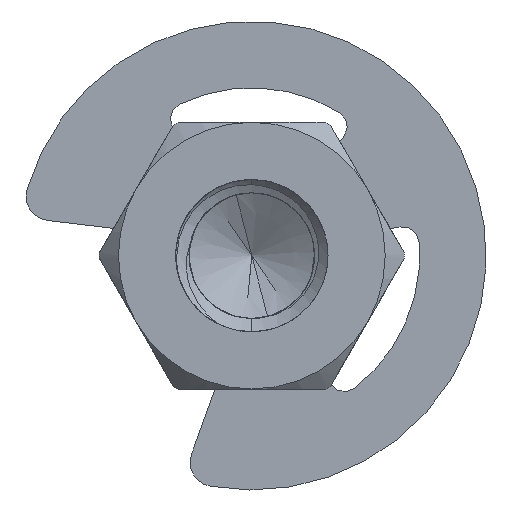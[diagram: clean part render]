
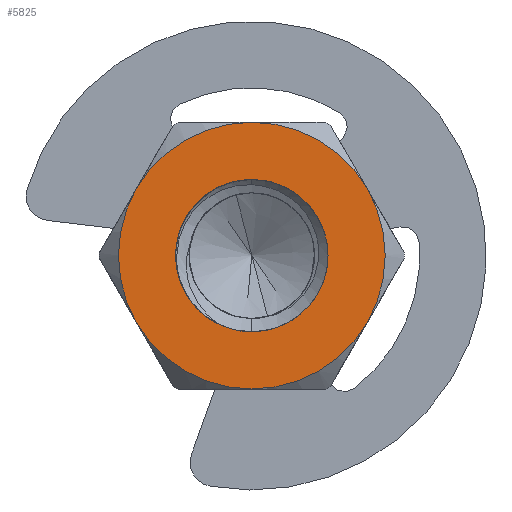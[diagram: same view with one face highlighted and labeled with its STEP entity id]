
A CAD part, front view. The second image highlights one B-rep face of the part: STEP entity #5825.
In plain terms, the highlighted planar face has unit normal (0, -1, 0).
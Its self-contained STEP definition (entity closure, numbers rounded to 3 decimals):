
#47 = AXIS2_PLACEMENT_3D ( 'NONE', #542, #1439, #4729 ) ;
#69 = DIRECTION ( 'NONE',  ( 0., 1., 0. ) ) ;
#296 = DIRECTION ( 'NONE',  ( 0., 0., 1. ) ) ;
#360 = AXIS2_PLACEMENT_3D ( 'NONE', #1010, #9238, #6068 ) ;
#400 = VERTEX_POINT ( 'NONE', #806 ) ;
#542 = CARTESIAN_POINT ( 'NONE',  ( 0., 0., 0. ) ) ;
#675 = CARTESIAN_POINT ( 'NONE',  ( 0., 0., 0. ) ) ;
#687 = EDGE_CURVE ( 'NONE', #7731, #7144, #6876, .T. ) ;
#747 = DIRECTION ( 'NONE',  ( 0., 1., 0. ) ) ;
#806 = CARTESIAN_POINT ( 'NONE',  ( 3.031, 0., -1.75 ) ) ;
#994 = CIRCLE ( 'NONE', #4098, 3.5 ) ;
#1010 = CARTESIAN_POINT ( 'NONE',  ( 0., 0., 0. ) ) ;
#1131 = AXIS2_PLACEMENT_3D ( 'NONE', #8907, #9953, #1704 ) ;
#1219 = CIRCLE ( 'NONE', #8802, 2. ) ;
#1265 = AXIS2_PLACEMENT_3D ( 'NONE', #3222, #8292, #4151 ) ;
#1267 = CIRCLE ( 'NONE', #1265, 3.5 ) ;
#1372 = CARTESIAN_POINT ( 'NONE',  ( -1.863, 0., -0.728 ) ) ;
#1439 = DIRECTION ( 'NONE',  ( 0., 1., 0. ) ) ;
#1460 = ORIENTED_EDGE ( 'NONE', *, *, #5406, .F. ) ;
#1704 = DIRECTION ( 'NONE',  ( 0., 0., 1. ) ) ;
#1884 = ORIENTED_EDGE ( 'NONE', *, *, #10291, .F. ) ;
#2197 = ORIENTED_EDGE ( 'NONE', *, *, #10043, .F. ) ;
#2479 = DIRECTION ( 'NONE',  ( 0., 0., 1. ) ) ;
#2808 = CARTESIAN_POINT ( 'NONE',  ( 0., 0., 0. ) ) ;
#3111 = CARTESIAN_POINT ( 'NONE',  ( 0., 0., 2. ) ) ;
#3222 = CARTESIAN_POINT ( 'NONE',  ( 0., 0., 0. ) ) ;
#3532 = CIRCLE ( 'NONE', #360, 2. ) ;
#3846 = FACE_OUTER_BOUND ( 'NONE', #10657, .T. ) ;
#4016 = VERTEX_POINT ( 'NONE', #7358 ) ;
#4098 = AXIS2_PLACEMENT_3D ( 'NONE', #6307, #69, #4349 ) ;
#4151 = DIRECTION ( 'NONE',  ( 0., 0., 1. ) ) ;
#4349 = DIRECTION ( 'NONE',  ( 0., 0., 1. ) ) ;
#4729 = DIRECTION ( 'NONE',  ( 0., 0., 1. ) ) ;
#4835 = DIRECTION ( 'NONE',  ( 0., 1., 0. ) ) ;
#5061 = AXIS2_PLACEMENT_3D ( 'NONE', #675, #13230, #10142 ) ;
#5406 = EDGE_CURVE ( 'NONE', #12629, #4016, #12499, .T. ) ;
#5546 = CARTESIAN_POINT ( 'NONE',  ( -3.031, 0., 1.75 ) ) ;
#5669 = ORIENTED_EDGE ( 'NONE', *, *, #12834, .F. ) ;
#5815 = FACE_BOUND ( 'NONE', #9037, .T. ) ;
#5825 = ADVANCED_FACE ( 'NONE', ( #5815, #3846 ), #6804, .F. ) ;
#5969 = ORIENTED_EDGE ( 'NONE', *, *, #7707, .T. ) ;
#6068 = DIRECTION ( 'NONE',  ( 0., 0., 1. ) ) ;
#6307 = CARTESIAN_POINT ( 'NONE',  ( 0., 0., 0. ) ) ;
#6314 = ORIENTED_EDGE ( 'NONE', *, *, #7398, .F. ) ;
#6361 = EDGE_CURVE ( 'NONE', #7894, #7281, #8065, .T. ) ;
#6539 = VERTEX_POINT ( 'NONE', #9009 ) ;
#6607 = EDGE_CURVE ( 'NONE', #9617, #7731, #3532, .T. ) ;
#6662 = DIRECTION ( 'NONE',  ( 0., 1., 0. ) ) ;
#6804 = PLANE ( 'NONE',  #1131 ) ;
#6876 = CIRCLE ( 'NONE', #10859, 2. ) ;
#6896 = DIRECTION ( 'NONE',  ( 0., 0., 1. ) ) ;
#6954 = EDGE_CURVE ( 'NONE', #6539, #9617, #8913, .T. ) ;
#7120 = CARTESIAN_POINT ( 'NONE',  ( -3.031, 0., -1.75 ) ) ;
#7144 = VERTEX_POINT ( 'NONE', #3111 ) ;
#7281 = VERTEX_POINT ( 'NONE', #7120 ) ;
#7358 = CARTESIAN_POINT ( 'NONE',  ( 3.031, 0., 1.75 ) ) ;
#7398 = EDGE_CURVE ( 'NONE', #400, #7894, #11981, .T. ) ;
#7400 = DIRECTION ( 'NONE',  ( 0., 1., 0. ) ) ;
#7707 = EDGE_CURVE ( 'NONE', #7144, #6539, #1219, .T. ) ;
#7731 = VERTEX_POINT ( 'NONE', #1372 ) ;
#7776 = AXIS2_PLACEMENT_3D ( 'NONE', #12619, #7400, #10593 ) ;
#7894 = VERTEX_POINT ( 'NONE', #11044 ) ;
#8065 = CIRCLE ( 'NONE', #47, 3.5 ) ;
#8127 = CARTESIAN_POINT ( 'NONE',  ( -0.833, 0., -1.818 ) ) ;
#8292 = DIRECTION ( 'NONE',  ( 0., 1., 0. ) ) ;
#8802 = AXIS2_PLACEMENT_3D ( 'NONE', #11728, #12761, #296 ) ;
#8907 = CARTESIAN_POINT ( 'NONE',  ( 0., 0., 0. ) ) ;
#8913 = CIRCLE ( 'NONE', #12668, 2. ) ;
#8969 = CARTESIAN_POINT ( 'NONE',  ( 0., 0., 3.5 ) ) ;
#9009 = CARTESIAN_POINT ( 'NONE',  ( 0., 0., -2. ) ) ;
#9030 = ORIENTED_EDGE ( 'NONE', *, *, #6954, .T. ) ;
#9037 = EDGE_LOOP ( 'NONE', ( #13301, #10100, #5969, #9030 ) ) ;
#9238 = DIRECTION ( 'NONE',  ( 0., 1., 0. ) ) ;
#9617 = VERTEX_POINT ( 'NONE', #8127 ) ;
#9953 = DIRECTION ( 'NONE',  ( 0., 1., 0. ) ) ;
#10043 = EDGE_CURVE ( 'NONE', #4016, #400, #11293, .T. ) ;
#10100 = ORIENTED_EDGE ( 'NONE', *, *, #687, .T. ) ;
#10142 = DIRECTION ( 'NONE',  ( 0., 0., 1. ) ) ;
#10291 = EDGE_CURVE ( 'NONE', #11800, #12629, #994, .T. ) ;
#10512 = ORIENTED_EDGE ( 'NONE', *, *, #6361, .F. ) ;
#10593 = DIRECTION ( 'NONE',  ( 0., 0., 1. ) ) ;
#10657 = EDGE_LOOP ( 'NONE', ( #1460, #1884, #5669, #10512, #6314, #2197 ) ) ;
#10859 = AXIS2_PLACEMENT_3D ( 'NONE', #13133, #747, #6896 ) ;
#11044 = CARTESIAN_POINT ( 'NONE',  ( 0., 0., -3.5 ) ) ;
#11154 = DIRECTION ( 'NONE',  ( 0., 0., 1. ) ) ;
#11293 = CIRCLE ( 'NONE', #13425, 3.5 ) ;
#11728 = CARTESIAN_POINT ( 'NONE',  ( 0., 0., 0. ) ) ;
#11733 = CARTESIAN_POINT ( 'NONE',  ( 0., 0., 0. ) ) ;
#11800 = VERTEX_POINT ( 'NONE', #5546 ) ;
#11981 = CIRCLE ( 'NONE', #7776, 3.5 ) ;
#12499 = CIRCLE ( 'NONE', #5061, 3.5 ) ;
#12619 = CARTESIAN_POINT ( 'NONE',  ( 0., 0., 0. ) ) ;
#12629 = VERTEX_POINT ( 'NONE', #8969 ) ;
#12668 = AXIS2_PLACEMENT_3D ( 'NONE', #11733, #6662, #2479 ) ;
#12761 = DIRECTION ( 'NONE',  ( 0., 1., 0. ) ) ;
#12834 = EDGE_CURVE ( 'NONE', #7281, #11800, #1267, .T. ) ;
#13133 = CARTESIAN_POINT ( 'NONE',  ( 0., 0., 0. ) ) ;
#13230 = DIRECTION ( 'NONE',  ( 0., 1., 0. ) ) ;
#13301 = ORIENTED_EDGE ( 'NONE', *, *, #6607, .T. ) ;
#13425 = AXIS2_PLACEMENT_3D ( 'NONE', #2808, #4835, #11154 ) ;
